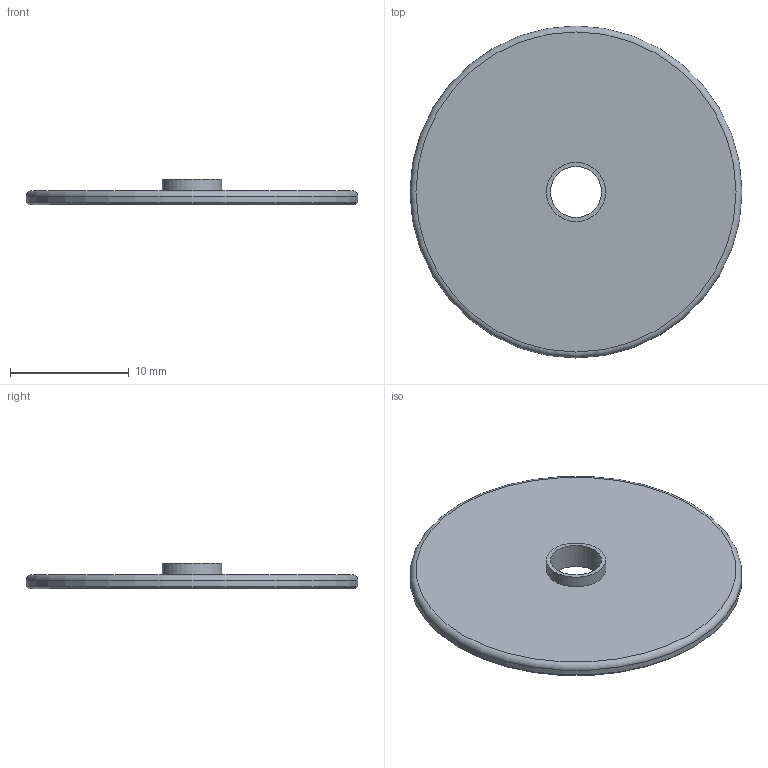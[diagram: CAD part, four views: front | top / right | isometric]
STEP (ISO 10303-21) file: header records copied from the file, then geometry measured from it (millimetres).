
FILE_DESCRIPTION(('Open CASCADE Model'),'2;1');
FILE_NAME('W-ROUND-WR28','2026-10-19T21:24:03',('Author'),( 'Open CASCADE'),'Open CASCADE STEP processor 8.0','build123d', 'Unknown');
FILE_SCHEMA(('AUTOMOTIVE_DESIGN { 1 0 10303 214 1 1 1 1 }'));
Length unit declared in the file: millimetre
Products named in the file (2): W-ROUND-WR28; brass_WR28__w
Assembly tree (1 placements, depth 2):
  W-ROUND-WR28
    brass_WR28__w
Bounding box: 28 x 28 x 2.19 mm (x, y, z)
Volume: 720.1 mm3; surface area: 1323.8 mm2
Topology: 1 solids, 1 shells, 8 faces, 13 edges, 8 vertices
Faces by surface type: cylinder 3, plane 3, cone 1, torus 1
Full cylindrical faces by diameter (mm): 4.3 x1, 5 x1, 28 x1
Entity records: 387 total; most frequent: DIRECTION 64, CARTESIAN_POINT 61, ORIENTED_EDGE 26, PCURVE 26, DEFINITIONAL_REPRESENTATION 26, LINE 20, VECTOR 20, AXIS2_PLACEMENT_3D 19
